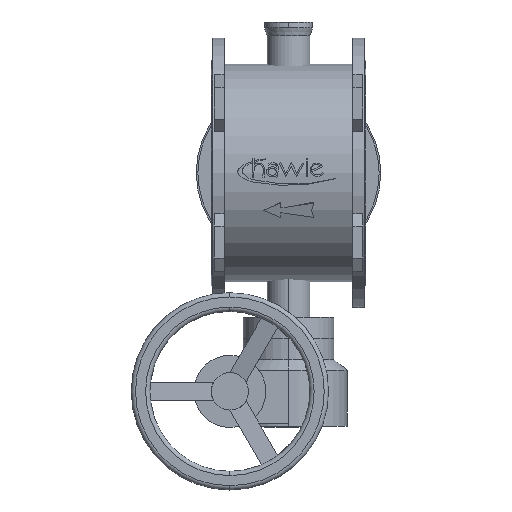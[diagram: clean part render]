
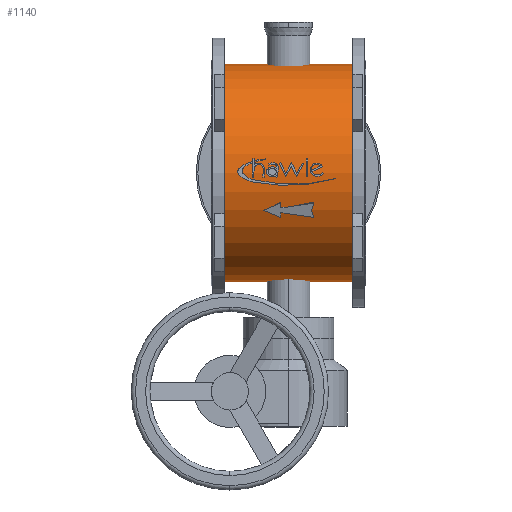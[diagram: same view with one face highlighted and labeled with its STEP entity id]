
A CAD part, top view. The second image highlights one B-rep face of the part: STEP entity #1140.
In plain terms, the highlighted cylindrical face has radius 204 mm (diameter 408 mm), a partial arc.
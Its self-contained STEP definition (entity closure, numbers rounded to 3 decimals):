
#1140=ADVANCED_FACE('',(#2333),#2334,.T.);
#2333=FACE_OUTER_BOUND('',#4008,.T.);
#2334=CYLINDRICAL_SURFACE('',#4009,204.0);
#4008=EDGE_LOOP('',(#5920,#5921,#5922,#5923));
#4009=AXIS2_PLACEMENT_3D('',#5924,#5925,#5926);
#5920=ORIENTED_EDGE('',*,*,#9137,.T.);
#5921=ORIENTED_EDGE('',*,*,#9138,.T.);
#5922=ORIENTED_EDGE('',*,*,#9139,.T.);
#5923=ORIENTED_EDGE('',*,*,#9140,.T.);
#5924=CARTESIAN_POINT('',(-265.5,0.,0.0));
#5925=DIRECTION('',(1.0,0.,0.0));
#5926=DIRECTION('',(0.,-1.0,0.0));
#9137=EDGE_CURVE('',#10870,#10871,#10872,.T.);
#9138=EDGE_CURVE('',#10871,#10873,#10874,.T.);
#9139=EDGE_CURVE('',#10873,#10875,#10876,.T.);
#9140=EDGE_CURVE('',#10875,#10870,#10877,.T.);
#10870=VERTEX_POINT('',#13131);
#10871=VERTEX_POINT('',#13132);
#10872=LINE('',#13133,#13134);
#10873=VERTEX_POINT('',#13135);
#10874=CIRCLE('',#13136,204.0);
#10875=VERTEX_POINT('',#13137);
#10876=LINE('',#13138,#13139);
#10877=CIRCLE('',#13140,204.0);
#13131=CARTESIAN_POINT('',(-265.5,-204.0,0.0));
#13132=CARTESIAN_POINT('',(-24.5,-204.0,0.0));
#13133=CARTESIAN_POINT('',(-265.5,-204.0,0.));
#13134=VECTOR('',#15271,1.0);
#13135=CARTESIAN_POINT('',(-24.5,204.0,0.));
#13136=AXIS2_PLACEMENT_3D('',#15272,#15273,#15274);
#13137=CARTESIAN_POINT('',(-265.5,204.0,0.));
#13138=CARTESIAN_POINT('',(-265.5,204.0,0.));
#13139=VECTOR('',#15275,1.0);
#13140=AXIS2_PLACEMENT_3D('',#15276,#15277,#15278);
#15271=DIRECTION('',(1.0,0.,0.0));
#15272=CARTESIAN_POINT('',(-24.5,0.,0.0));
#15273=DIRECTION('',(-1.0,0.,0.0));
#15274=DIRECTION('',(0.,-1.0,0.0));
#15275=DIRECTION('',(-1.0,0.,-0.0));
#15276=CARTESIAN_POINT('',(-265.5,0.,0.0));
#15277=DIRECTION('',(1.0,0.,0.0));
#15278=DIRECTION('',(0.,-1.0,0.0));
